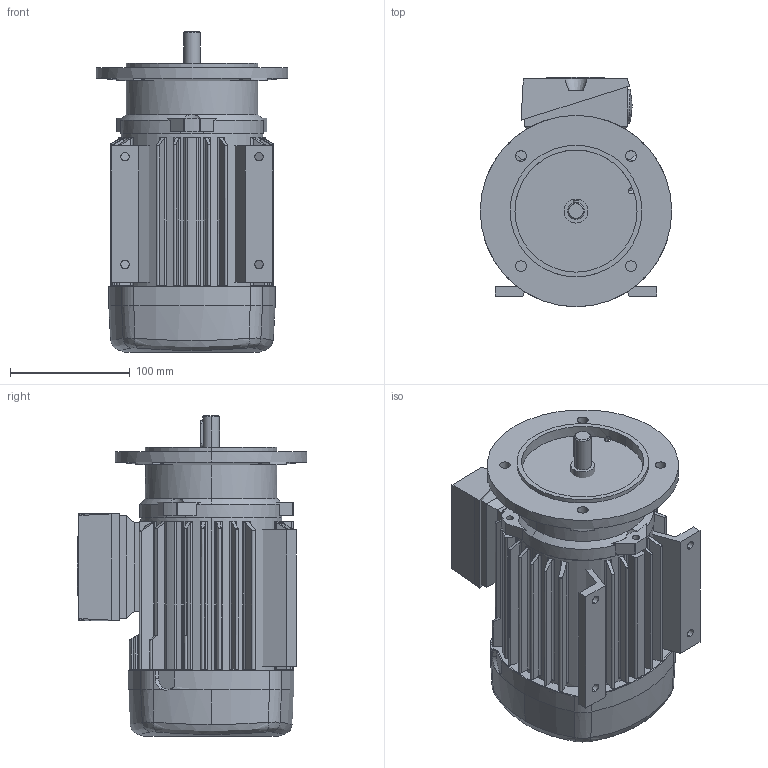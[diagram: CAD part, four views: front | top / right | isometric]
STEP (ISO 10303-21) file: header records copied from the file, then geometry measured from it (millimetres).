
FILE_DESCRIPTION (( 'STEP AP214' ), '1' );
FILE_NAME ('IE3-W41R71_B35FF130.STEP', '2024-10-22T03:49:03', ( '' ), ( '' ), 'SwSTEP 2.0', 'SolidWorks 2023', '' );
FILE_SCHEMA (( 'AUTOMOTIVE_DESIGN' ));
Length unit declared in the file: millimetre
Products named in the file (12): Fuss_Prog_links_Kat_F_Prog071_li; IE3-W41R71_B35FF130; LF_FF_B5K_klein_LF08 FF130; WE_B5K_RWE_Kat_14x30 (W21R71); KA05_komplett_Kat_VSS_2xM25; LHB_Kat_LHB07; RG 07_Kat; FG07; Fuss_Prog_rechts_Kat_F_Prog071_re; Verschlussschraube_M25; KA05_Kat; KD05_Kat
Assembly tree (12 placements, depth 3):
  IE3-W41R71_B35FF130
    FG07
      RG 07_Kat
      Fuss_Prog_links_Kat_F_Prog071_li
      Fuss_Prog_rechts_Kat_F_Prog071_re
    LHB_Kat_LHB07
    KA05_komplett_Kat_VSS_2xM25
      KA05_Kat
      KD05_Kat
      Verschlussschraube_M25  x2
    LF_FF_B5K_klein_LF08 FF130
    WE_B5K_RWE_Kat_14x30 (W21R71)
Bounding box: 160 x 192 x 268 mm (x, y, z)
Volume: 3549203.1 mm3; surface area: 357447.2 mm2
Topology: 10 solids, 10 shells, 515 faces, 1348 edges, 886 vertices
Faces by surface type: plane 232, cylinder 221, cone 48, bspline 8, sphere 4, torus 2
Entity records: 17472 total; most frequent: CARTESIAN_POINT 4771, ORIENTED_EDGE 2618, DIRECTION 2554, EDGE_CURVE 1309, AXIS2_PLACEMENT_3D 935, VERTEX_POINT 860, VECTOR 684, LINE 684
